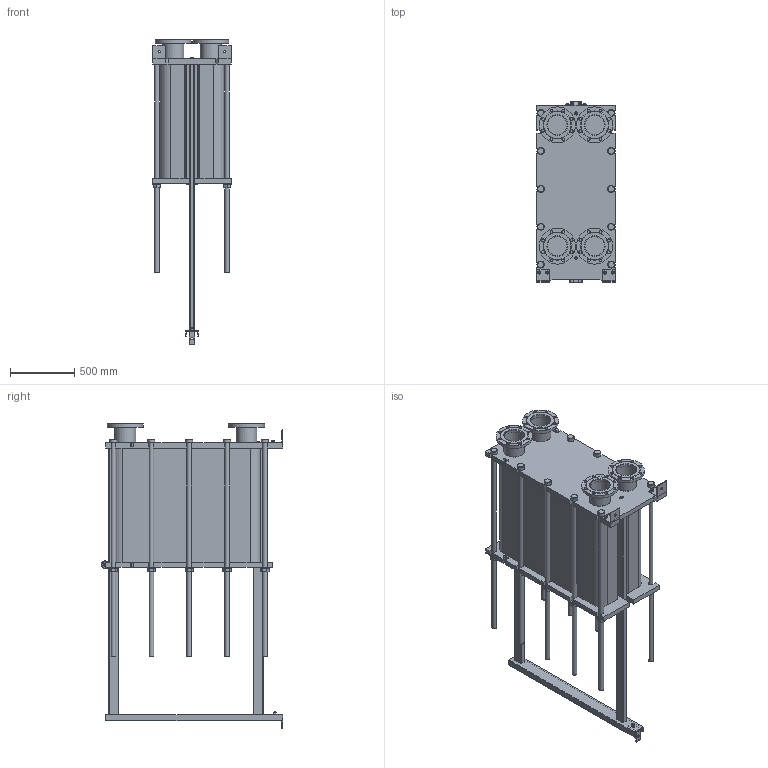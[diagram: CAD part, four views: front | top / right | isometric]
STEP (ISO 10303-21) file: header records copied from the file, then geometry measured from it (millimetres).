
FILE_DESCRIPTION(/* description */ (''),/* implementation_level */ '2;1');
FILE_NAME(/* name */ 'C:\Users\zhuro\Desktop\ENCO\TO\ЭН-041\ЭН-0,5-041-257-1.stp',/* time_stamp */ '2022-06-06T11:10:25+03:00',/* author */ ('zhuro'),/* organization */ (''),/* preprocessor_version */ 'ST-DEVELOPER v18.1',/* originating_system */ 'Autodesk Inventor 2022',/* authorisation */ '');
FILE_SCHEMA (('AUTOMOTIVE_DESIGN { 1 0 10303 214 3 1 1 }'));
Length unit declared in the file: millimetre
Products named in the file (1): ЭН-0,5-041-257-1
Bounding box: 610 x 1406.5 x 2367.5 mm (x, y, z)
Volume: 590190956.8 mm3; surface area: 12486232.4 mm2
Topology: 52 solids, 52 shells, 711 faces, 1696 edges, 1094 vertices
Faces by surface type: plane 487, cylinder 177, cone 41, torus 6
Full cylindrical faces by diameter (mm): 8 x4, 10 x2, 16 x8, 18 x3, 22 x32, 36 x24, 50 x1, 54 x10, 60 x12, 151 x4, 161 x8, 280 x4
Entity records: 22667 total; most frequent: CARTESIAN_POINT 5230, DIRECTION 3644, ORIENTED_EDGE 3392, EDGE_CURVE 1696, AXIS2_PLACEMENT_3D 1272, LINE 1100, VECTOR 1100, VERTEX_POINT 1094
